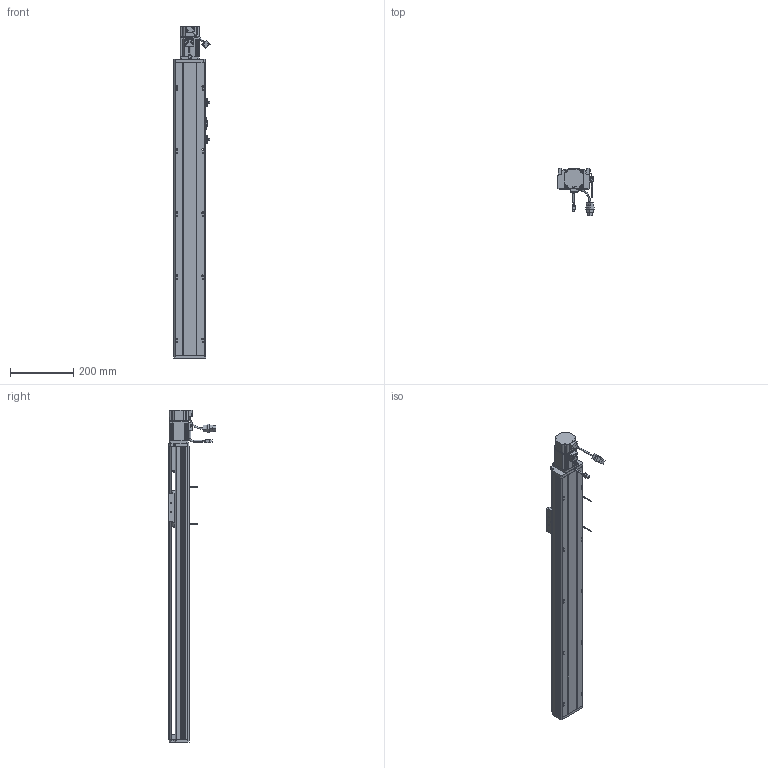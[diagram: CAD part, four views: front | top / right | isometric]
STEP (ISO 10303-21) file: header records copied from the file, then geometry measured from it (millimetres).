
FILE_DESCRIPTION (( 'STEP AP214' ), '1' );
FILE_NAME ('CTH10-700.STEP', '2019-11-18T08:12:12', ( '微软用户' ), ( '微软中国' ), 'SwSTEP 2.0', 'SolidWorks 2017', '' );
FILE_SCHEMA (( 'AUTOMOTIVE_DESIGN' ));
Length unit declared in the file: millimetre
Products named in the file (34): CTH10-700; CTH10-底座_默认<按加工>; CTH10-移动座_默认<按加工>; CTH10-蹟簽蟀諉啣; CTH10-盓傅釱; CTH10-傷啣; CTH10-侜督萇儂啣; SFH1605-288; SFH1605; CTH10-盖板_默认<按加工>; 怢湛200W侜督萇儂ECMA-CX0602ES; CTH10-粣創釱; BEARING_BaseModel20190604090351; 7001-DF; 粣創揤啣; COL12B-粣遠; 坶踡蹟譫; M4-L8囀鞠褒蹟佪; M3-L10囀鞠褒蹟佪; CTH10粣創釱蚾饜极; M5-L20囀鞠褒蹟佪; 遣喳蝶15x12x8; 6000Z粣創; M4-L6半圆头内六角螺丝; EE-SX672; M3-L8囀鞠褒蹟佪; 100耀郪-覜茼んえ; MGN12C; MGN12C-R1; MGN12C-2R420-Z0CHC; 噩砃M3-L10囀鞠褒蹟佪; 噩砃MGN12C; 噩砃MGN12C-R1; 噩砃MGN12C-2R420-Z0CHC
Assembly tree (100 placements, depth 4):
  CTH10-700
    CTH10-底座_默认<按加工>
    CTH10-移动座_默认<按加工>
    CTH10-蹟簽蟀諉啣
    CTH10-盓傅釱
    CTH10-傷啣
    CTH10-侜督萇儂啣
    SFH1605-288
    SFH1605
    CTH10-盖板_默认<按加工>
    怢湛200W侜督萇儂ECMA-CX0602ES
    CTH10粣創釱蚾饜极
      CTH10-粣創釱
      7001-DF
        BEARING_BaseModel20190604090351  x2
      粣創揤啣
      COL12B-粣遠  x2
      坶踡蹟譫
      M4-L8囀鞠褒蹟佪  x4
      M3-L10囀鞠褒蹟佪  x6
    M3-L10囀鞠褒蹟佪  x19
    M5-L20囀鞠褒蹟佪  x4
    遣喳蝶15x12x8  x3
    6000Z粣創
    M4-L6半圆头内六角螺丝  x4
    M4-L8囀鞠褒蹟佪  x8
    EE-SX672  x2
    M3-L8囀鞠褒蹟佪  x4
    100耀郪-覜茼んえ
    MGN12C-2R420-Z0CHC
      MGN12C
      MGN12C-R1  x2
      M3-L10囀鞠褒蹟佪  x8
    噩砃M3-L10囀鞠褒蹟佪
    噩砃MGN12C-2R420-Z0CHC
      噩砃MGN12C
      噩砃MGN12C-R1  x2
      噩砃M3-L10囀鞠褒蹟佪  x8
Bounding box: 114.24 x 151.37 x 1052 mm (x, y, z)
Volume: 2697208.8 mm3; surface area: 1000578.4 mm2
Topology: 96 solids, 105 shells, 4633 faces, 11702 edges, 7302 vertices
Faces by surface type: plane 2330, cylinder 1416, cone 601, bspline 241, torus 33, sphere 12
Entity records: 97946 total; most frequent: CARTESIAN_POINT 29734, ORIENTED_EDGE 13908, DIRECTION 13321, EDGE_CURVE 6954, AXIS2_PLACEMENT_3D 4754, VERTEX_POINT 4516, VECTOR 3813, LINE 3813
